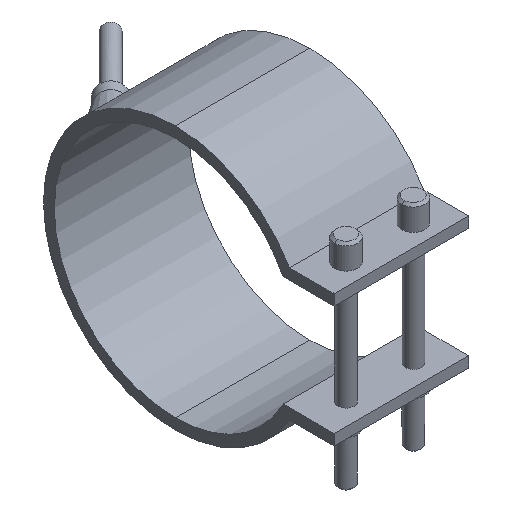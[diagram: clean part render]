
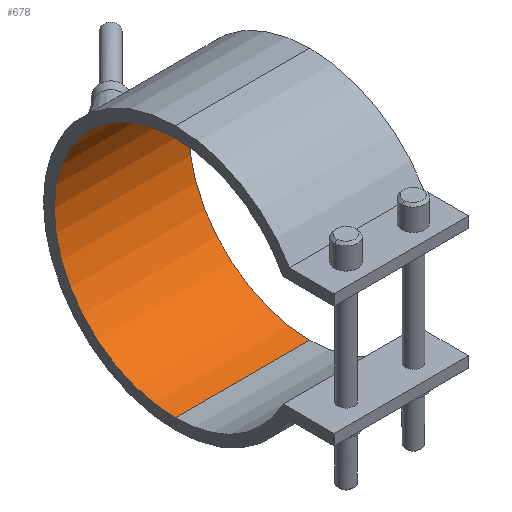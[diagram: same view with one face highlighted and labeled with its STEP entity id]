
A CAD part, isometric view. The second image highlights one B-rep face of the part: STEP entity #678.
In plain terms, the highlighted cylindrical face has radius 45 mm (diameter 90 mm), a partial arc.
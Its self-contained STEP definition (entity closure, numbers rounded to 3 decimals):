
#348=CARTESIAN_POINT('Vertex',(25.,0.,45.)) ;
#353=CARTESIAN_POINT('Axis2P3D Location',(25.,0.,0.)) ;
#357=CARTESIAN_POINT('Vertex',(25.,0.,-45.)) ;
#464=CARTESIAN_POINT('Vertex',(-25.,0.,-45.)) ;
#467=CARTESIAN_POINT('Axis2P3D Location',(-25.,0.,0.)) ;
#471=CARTESIAN_POINT('Vertex',(-25.,0.,45.)) ;
#650=CARTESIAN_POINT('Line Origine',(25.,0.,45.)) ;
#662=CARTESIAN_POINT('Axis2P3D Location',(25.,0.,0.)) ;
#667=CARTESIAN_POINT('Line Origine',(25.,0.,-45.)) ;
#354=DIRECTION('Axis2P3D Direction',(1.,0.,0.)) ;
#468=DIRECTION('Axis2P3D Direction',(1.,0.,0.)) ;
#651=DIRECTION('Vector Direction',(1.,0.,0.)) ;
#663=DIRECTION('Axis2P3D Direction',(1.,0.,-0.)) ;
#664=DIRECTION('Axis2P3D XDirection',(0.,0.,-1.)) ;
#668=DIRECTION('Vector Direction',(1.,0.,0.)) ;
#355=AXIS2_PLACEMENT_3D('Circle Axis2P3D',#353,#354,$) ;
#469=AXIS2_PLACEMENT_3D('Circle Axis2P3D',#467,#468,$) ;
#665=AXIS2_PLACEMENT_3D('Cylinder Axis2P3D',#662,#663,#664) ;
#673=ORIENTED_EDGE('',*,*,#359,.T.) ;
#674=ORIENTED_EDGE('',*,*,#654,.T.) ;
#675=ORIENTED_EDGE('',*,*,#473,.F.) ;
#676=ORIENTED_EDGE('',*,*,#671,.T.) ;
#652=VECTOR('Line Direction',#651,1.) ;
#669=VECTOR('Line Direction',#668,1.) ;
#678=ADVANCED_FACE('29090050',(#677),#666,.F.) ;
#356=CIRCLE('generated circle',#355,45.) ;
#470=CIRCLE('generated circle',#469,45.) ;
#666=CYLINDRICAL_SURFACE('generated cylinder',#665,45.) ;
#359=EDGE_CURVE('',#358,#349,#356,.T.) ;
#473=EDGE_CURVE('',#465,#472,#470,.T.) ;
#654=EDGE_CURVE('',#349,#472,#653,.F.) ;
#671=EDGE_CURVE('',#465,#358,#670,.T.) ;
#672=EDGE_LOOP('',(#673,#674,#675,#676)) ;
#677=FACE_OUTER_BOUND('',#672,.T.) ;
#653=LINE('Line',#650,#652) ;
#670=LINE('Line',#667,#669) ;
#349=VERTEX_POINT('',#348) ;
#358=VERTEX_POINT('',#357) ;
#465=VERTEX_POINT('',#464) ;
#472=VERTEX_POINT('',#471) ;
